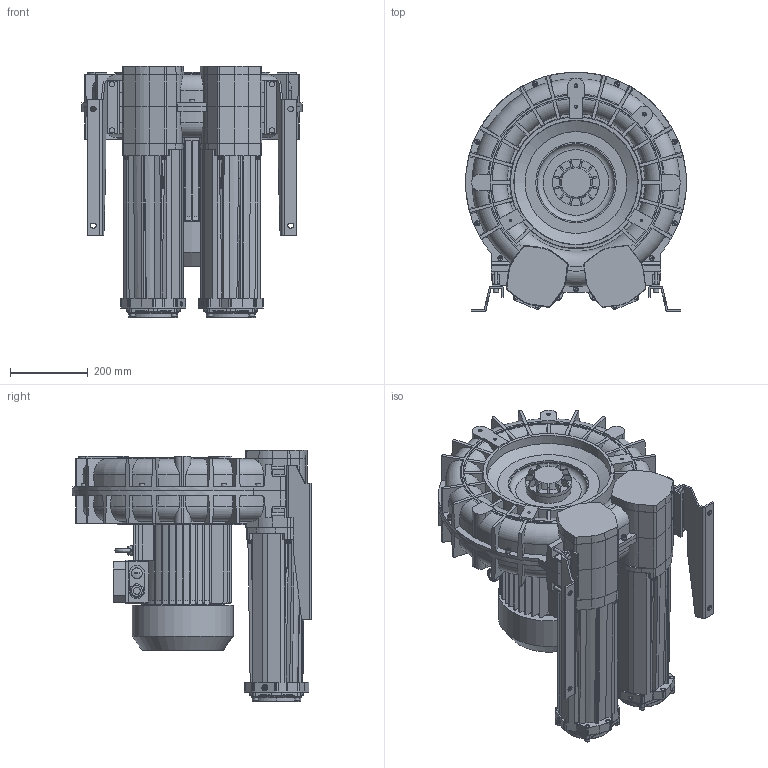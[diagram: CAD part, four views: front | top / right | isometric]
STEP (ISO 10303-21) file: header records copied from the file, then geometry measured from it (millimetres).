
FILE_DESCRIPTION (( 'STEP AP203' ), '1' );
FILE_NAME ('STP-L_e_12_MD_MOR_IE3WR_132_11.0kW-3_24-00.step', '2025-01-15T09:20:24', ( '' ), ( '' ), 'SwSTEP 2.0', 'SolidWorks 2024', '' );
FILE_SCHEMA (( 'CONFIG_CONTROL_DESIGN' ));
Length unit declared in the file: millimetre
Products named in the file (1): STP-L_e_12_MD_MOR_IE3WR_132_11.0kW-3_24-00
Bounding box: 568 x 616 x 647 mm (x, y, z)
Volume: 64514573.4 mm3; surface area: 3580393.3 mm2
Topology: 82 solids, 82 shells, 5637 faces, 14421 edges, 8965 vertices
Faces by surface type: plane 1924, cylinder 1851, bspline 826, torus 500, cone 479, sphere 57
Full cylindrical faces by diameter (mm): 6.8 x24, 7.5 x4, 8 x33, 8.4 x29, 8.5 x10, 8.566 x2, 8.8 x4, 9.98 x2, 10 x3, 11 x8, 12 x2, 12.02 x2, 13 x46, 14 x14, 16 x4, 16.5 x2, 18 x1, 19 x1, 20 x2, 21.4 x1, 24 x4, 25 x3, 28 x1, 110.4 x2, 115 x2, 120 x1, 128 x2, 207 x3, 213 x1, 259 x1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
Entity records: 269310 total; most frequent: CARTESIAN_POINT 143698, ORIENTED_EDGE 27452, DIRECTION 24100, EDGE_CURVE 13726, AXIS2_PLACEMENT_3D 9261, VERTEX_POINT 8763, EDGE_LOOP 6291, FACE_OUTER_BOUND 5927
